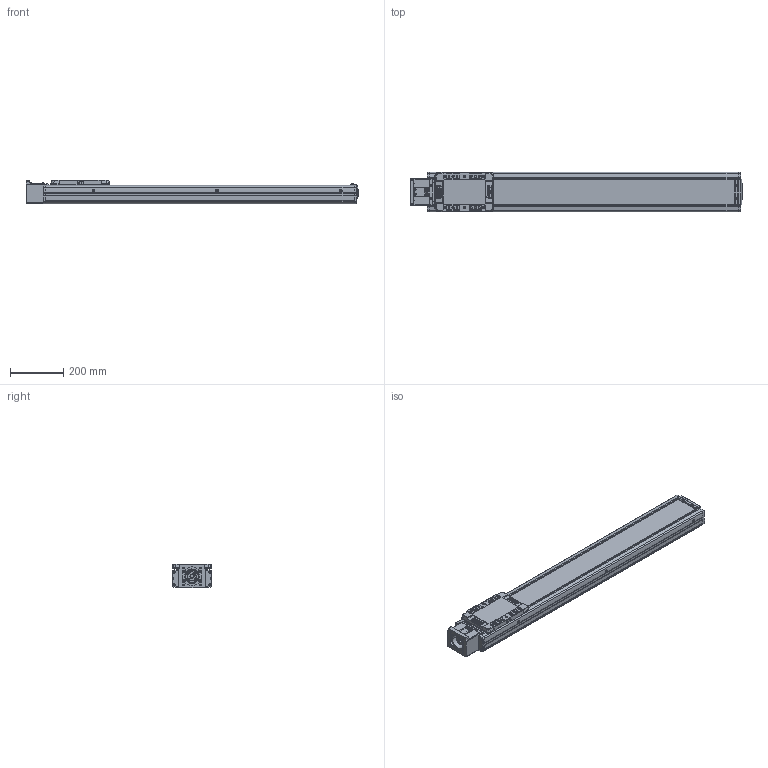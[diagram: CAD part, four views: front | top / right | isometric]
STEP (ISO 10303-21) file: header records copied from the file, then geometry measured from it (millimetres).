
FILE_DESCRIPTION(('STEP AP214'),'1');
FILE_NAME('Z:/Web/3D/SAN150/2013.04 (STP.)/SAN150ㅁㅁ-900S.stp','2013-05-07T10:38:17',(' '),(' '),'Spatial InterOp 3D',' ',' ');
FILE_SCHEMA(('automotive_design'));
Length unit declared in the file: millimetre
Products named in the file (77): SLBL-SAN150; SLCV-SAN150; FHCS M4.0 x 8.0; BHCS M4.0 x 10.0; SFX-SAN150; RRCV-SAN150; FRBL-SAN150; Spacer; RN15; FRCV-SAN150; Screw 20; BASE-SAN150-000L ; SUS COVER; 스크루 : Round - M5.0 x 6.0; BHCS M3.0 x 6.0; SSFX-SAN65; CPLCV-SAN65; SDWA47C(2); SDWA47C(3-1); SDWA47C(3); SDWA47C(1); SDWA47C(4); SDWA47C(5); MTHZ-SAN150-80
Bounding box: 1249 x 150 x 90 mm (x, y, z)
Volume: 6776680.8 mm3; surface area: 1276218.2 mm2
Topology: 77 solids, 77 shells, 2977 faces, 7737 edges, 4979 vertices
Faces by surface type: plane 1236, cylinder 1227, cone 409, sphere 60, bspline 29, torus 16
Entity records: 120448 total; most frequent: CARTESIAN_POINT 19904, DIRECTION 16843, ORIENTED_EDGE 15218, EDGE_CURVE 7609, AXIS2_PLACEMENT_3D 6377, VERTEX_POINT 4979, LINE 4089, VECTOR 4089
